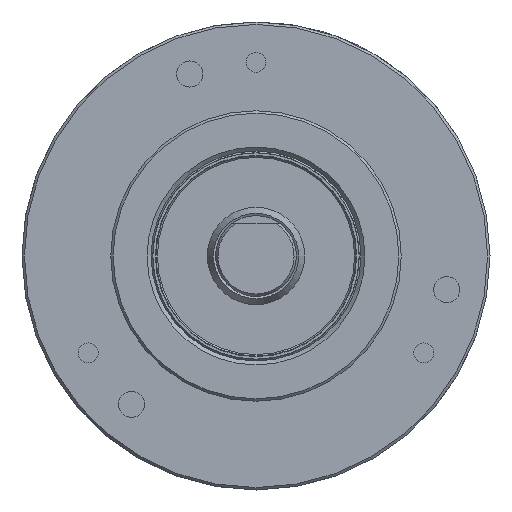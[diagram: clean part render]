
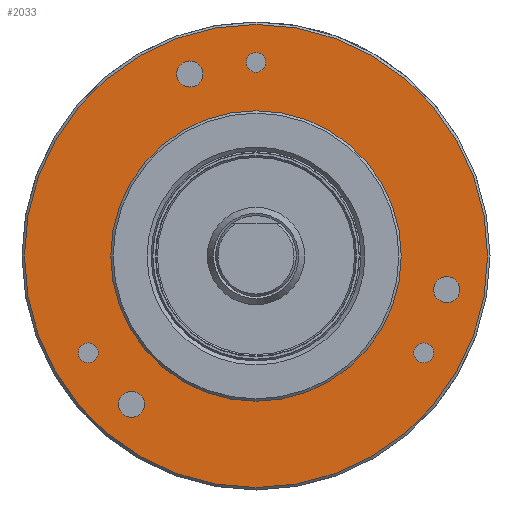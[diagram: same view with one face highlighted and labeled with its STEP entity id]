
A CAD part, left-side view. The second image highlights one B-rep face of the part: STEP entity #2033.
In plain terms, the highlighted planar face has unit normal (-1, 0, 0).
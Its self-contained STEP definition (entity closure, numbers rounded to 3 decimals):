
#2033 = ADVANCED_FACE( '', ( #4410, #4411, #4412, #4413, #4414, #4415, #4416, #4417 ), #4418, .T. );
#4410 = FACE_OUTER_BOUND( '', #17350, .T. );
#4411 = FACE_BOUND( '', #17351, .T. );
#4412 = FACE_BOUND( '', #17352, .T. );
#4413 = FACE_BOUND( '', #17353, .T. );
#4414 = FACE_BOUND( '', #17354, .T. );
#4415 = FACE_BOUND( '', #17355, .T. );
#4416 = FACE_BOUND( '', #17356, .T. );
#4417 = FACE_BOUND( '', #17357, .T. );
#4418 = PLANE( '', #17358 );
#17350 = EDGE_LOOP( '', ( #25656 ) );
#17351 = EDGE_LOOP( '', ( #25657 ) );
#17352 = EDGE_LOOP( '', ( #25658 ) );
#17353 = EDGE_LOOP( '', ( #25659 ) );
#17354 = EDGE_LOOP( '', ( #25660 ) );
#17355 = EDGE_LOOP( '', ( #25661 ) );
#17356 = EDGE_LOOP( '', ( #25662 ) );
#17357 = EDGE_LOOP( '', ( #25663 ) );
#17358 = AXIS2_PLACEMENT_3D( '', #25664, #25665, #25666 );
#25656 = ORIENTED_EDGE( '', *, *, #29159, .T. );
#25657 = ORIENTED_EDGE( '', *, *, #27979, .T. );
#25658 = ORIENTED_EDGE( '', *, *, #29198, .T. );
#25659 = ORIENTED_EDGE( '', *, *, #29195, .T. );
#25660 = ORIENTED_EDGE( '', *, *, #29083, .T. );
#25661 = ORIENTED_EDGE( '', *, *, #28850, .T. );
#25662 = ORIENTED_EDGE( '', *, *, #28571, .T. );
#25663 = ORIENTED_EDGE( '', *, *, #29199, .F. );
#25664 = CARTESIAN_POINT( '', ( 10., -20.222, 11.675 ) );
#25665 = DIRECTION( '', ( -1., 0., 0. ) );
#25666 = DIRECTION( '', ( 0., 0., 1. ) );
#27979 = EDGE_CURVE( '', #31078, #31078, #31079, .T. );
#28571 = EDGE_CURVE( '', #31929, #31929, #31930, .T. );
#28850 = EDGE_CURVE( '', #32304, #32304, #32305, .T. );
#29083 = EDGE_CURVE( '', #32578, #32578, #32579, .T. );
#29159 = EDGE_CURVE( '', #32665, #32665, #32666, .T. );
#29195 = EDGE_CURVE( '', #32706, #32706, #32707, .T. );
#29198 = EDGE_CURVE( '', #32710, #32710, #32711, .T. );
#29199 = EDGE_CURVE( '', #32712, #32712, #32713, .T. );
#31078 = VERTEX_POINT( '', #38035 );
#31079 = CIRCLE( '', #38036, 1.23 );
#31929 = VERTEX_POINT( '', #40658 );
#31930 = CIRCLE( '', #40659, 1.62 );
#32304 = VERTEX_POINT( '', #41771 );
#32305 = CIRCLE( '', #41772, 1.62 );
#32578 = VERTEX_POINT( '', #42638 );
#32579 = CIRCLE( '', #42639, 1.62 );
#32665 = VERTEX_POINT( '', #42913 );
#32666 = CIRCLE( '', #42914, 28.7 );
#32706 = VERTEX_POINT( '', #43028 );
#32707 = CIRCLE( '', #43029, 1.23 );
#32710 = VERTEX_POINT( '', #43032 );
#32711 = CIRCLE( '', #43033, 1.23 );
#32712 = VERTEX_POINT( '', #43034 );
#32713 = CIRCLE( '', #43035, 18. );
#38035 = CARTESIAN_POINT( '', ( 10., 19.719, -11.385 ) );
#38036 = AXIS2_PLACEMENT_3D( '', #51007, #51008, #51009 );
#40658 = CARTESIAN_POINT( '', ( 10., -25.038, -3.358 ) );
#40659 = AXIS2_PLACEMENT_3D( '', #51592, #51593, #51594 );
#41771 = CARTESIAN_POINT( '', ( 10., 14.024, -17.575 ) );
#41772 = AXIS2_PLACEMENT_3D( '', #51847, #51848, #51849 );
#42638 = CARTESIAN_POINT( '', ( 10., 6.805, 23.363 ) );
#42639 = AXIS2_PLACEMENT_3D( '', #51993, #51994, #51995 );
#42913 = CARTESIAN_POINT( '', ( 10., -24.855, 14.35 ) );
#42914 = AXIS2_PLACEMENT_3D( '', #52031, #52032, #52033 );
#43028 = CARTESIAN_POINT( '', ( 10., -1.065, 24.615 ) );
#43029 = AXIS2_PLACEMENT_3D( '', #52052, #52053, #52054 );
#43032 = CARTESIAN_POINT( '', ( 10., -21.85, -11.385 ) );
#43033 = AXIS2_PLACEMENT_3D( '', #52055, #52056, #52057 );
#43034 = CARTESIAN_POINT( '', ( 10., -15.588, 9. ) );
#43035 = AXIS2_PLACEMENT_3D( '', #52058, #52059, #52060 );
#51007 = CARTESIAN_POINT( '', ( 10., 20.785, -12. ) );
#51008 = DIRECTION( '', ( 1., 0., 0. ) );
#51009 = DIRECTION( '', ( 0., -0.866, 0.5 ) );
#51592 = CARTESIAN_POINT( '', ( 10., -23.635, -4.168 ) );
#51593 = DIRECTION( '', ( 1., 0., 0. ) );
#51594 = DIRECTION( '', ( 0., -0.866, 0.5 ) );
#51847 = CARTESIAN_POINT( '', ( 10., 15.427, -18.385 ) );
#51848 = DIRECTION( '', ( 1., 0., 0. ) );
#51849 = DIRECTION( '', ( 0., -0.866, 0.5 ) );
#51993 = CARTESIAN_POINT( '', ( 10., 8.208, 22.553 ) );
#51994 = DIRECTION( '', ( 1., 0., 0. ) );
#51995 = DIRECTION( '', ( 0., -0.866, 0.5 ) );
#52031 = CARTESIAN_POINT( '', ( 10., 0., 0. ) );
#52032 = DIRECTION( '', ( -1., 0., 0. ) );
#52033 = DIRECTION( '', ( 0., -0.866, 0.5 ) );
#52052 = CARTESIAN_POINT( '', ( 10., 0., 24. ) );
#52053 = DIRECTION( '', ( 1., 0., 0. ) );
#52054 = DIRECTION( '', ( 0., -0.866, 0.5 ) );
#52055 = CARTESIAN_POINT( '', ( 10., -20.785, -12. ) );
#52056 = DIRECTION( '', ( 1., 0., 0. ) );
#52057 = DIRECTION( '', ( 0., -0.866, 0.5 ) );
#52058 = CARTESIAN_POINT( '', ( 10., 0., 0. ) );
#52059 = DIRECTION( '', ( -1., 0., 0. ) );
#52060 = DIRECTION( '', ( 0., -0.866, 0.5 ) );
